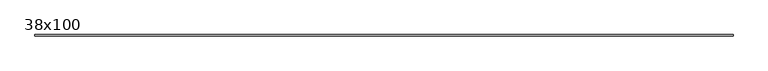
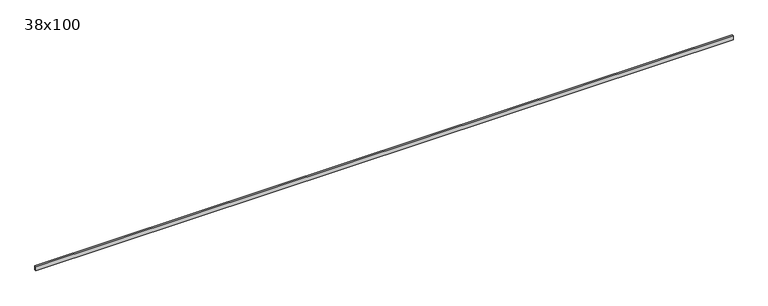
"""IFC4 building model written with IfcOpenShell, lengths in millimetres: beam geometry, Poutre - Bois de construction de dimensions courantes : 38x100."""

from ifc_helpers import new_model, si_unit, frame, origin, place, context, project, spatial, polyline, outline, extrude, source, transform, mapped, element, save


def beam_38x100_909b1974(model_context):
    return source(origin(), model_context, "Body", "SweptSolid", [
        extrude(outline(polyline([(8400.0, 19.05), (8400.0, -19.05), (-8566.0, -19.05), (-8566.0, 19.05), (8400.0, 19.05)])), frame((0.0, 0.0, -50.0), z_axis=(0.0, 0.0, 1.0), x_axis=(1.0, 0.0, 0.0)), (0.0, 0.0, 1.0), 100.0),
    ])


if __name__ == "__main__":
    model = new_model("IFC4")
    model_context = context("Model", 3, world=origin())
    ifc_project = project(units=[si_unit("LENGTHUNIT", "METRE", prefix="MILLI")], contexts=[model_context])
    site = spatial("IfcSite", under=ifc_project)
    building = spatial("IfcBuilding", under=site)
    placement = place(None, origin())
    beam_38x100_shape = beam_38x100_909b1974(model_context)
    element("IfcBeam", 1, ObjectType="Poutre - Bois de construction de dimensions courantes : 38x100", at=placement, inside=building, context=model_context, shape_type="MappedRepresentation", body=[
        mapped(beam_38x100_shape, transform((0.0, 0.0, 0.0), x_axis=(1.0, 0.0, 0.0), y_axis=(0.0, 1.0, 0.0), z_axis=(0.0, 0.0, 1.0))),
    ])
    save(model, "model.ifc")
